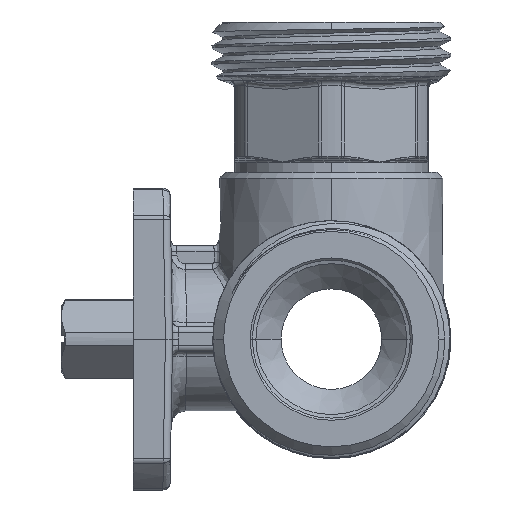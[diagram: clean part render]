
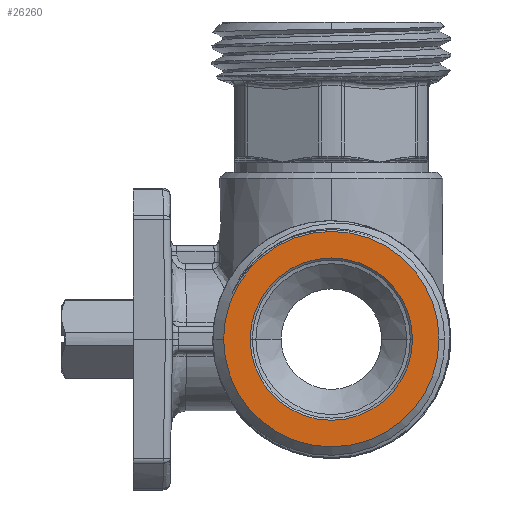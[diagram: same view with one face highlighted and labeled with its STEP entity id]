
A CAD part, left-side view. The second image highlights one B-rep face of the part: STEP entity #26260.
In plain terms, the highlighted planar face has unit normal (-1, 0, 0).
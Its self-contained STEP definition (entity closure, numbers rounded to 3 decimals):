
#2226=CARTESIAN_POINT('',(-44.1,0.,0.));
#2227=DIRECTION('',(1.,0.,0.));
#2228=DIRECTION('',(0.,1.,0.));
#2229=AXIS2_PLACEMENT_3D('',#2226,#2227,#2228);
#2490=CARTESIAN_POINT('',(-44.1,0.,0.));
#2491=DIRECTION('',(-1.,0.,0.));
#2492=DIRECTION('',(0.,1.,0.));
#2493=AXIS2_PLACEMENT_3D('',#2490,#2491,#2492);
#2495=CARTESIAN_POINT('',(-44.1,0.,0.));
#2496=DIRECTION('',(-1.,0.,0.));
#2497=DIRECTION('',(0.,1.,0.));
#2498=AXIS2_PLACEMENT_3D('',#2495,#2496,#2497);
#2500=CARTESIAN_POINT('',(-44.1,0.,0.));
#2501=DIRECTION('',(1.,0.,0.));
#2502=DIRECTION('',(0.,1.,0.));
#2503=AXIS2_PLACEMENT_3D('',#2500,#2501,#2502);
#22663=CARTESIAN_POINT('',(-44.1,11.3,0.));
#22664=VERTEX_POINT('',#22663);
#22665=CARTESIAN_POINT('',(-44.1,15.,0.));
#22667=VERTEX_POINT('',#22665);
#22679=CARTESIAN_POINT('',(-44.1,-11.3,0.));
#22680=VERTEX_POINT('',#22679);
#22681=CARTESIAN_POINT('',(-44.1,-15.,0.));
#22682=VERTEX_POINT('',#22681);
#26245=CARTESIAN_POINT('',(-44.1,0.,0.));
#26246=DIRECTION('',(-1.,0.,0.));
#26247=DIRECTION('',(0.,1.,0.));
#26248=AXIS2_PLACEMENT_3D('',#26245,#26246,#26247);
#26249=PLANE('',#26248);
#26250=ORIENTED_EDGE('',*,*,#25594,.T.);
#26251=ORIENTED_EDGE('',*,*,#26239,.F.);
#26252=EDGE_LOOP('',(#26250,#26251));
#26253=FACE_OUTER_BOUND('',#26252,.F.);
#26255=ORIENTED_EDGE('',*,*,#26254,.T.);
#26257=ORIENTED_EDGE('',*,*,#26256,.F.);
#26258=EDGE_LOOP('',(#26255,#26257));
#26259=FACE_BOUND('',#26258,.F.);
#2230=CIRCLE('',#2229,15.);
#2494=CIRCLE('',#2493,15.);
#2499=CIRCLE('',#2498,11.3);
#2504=CIRCLE('',#2503,11.3);
#25594=EDGE_CURVE('',#22667,#22682,#2230,.T.);
#26239=EDGE_CURVE('',#22667,#22682,#2494,.T.);
#26254=EDGE_CURVE('',#22664,#22680,#2499,.T.);
#26256=EDGE_CURVE('',#22664,#22680,#2504,.T.);
#26260=ADVANCED_FACE('',(#26253,#26259),#26249,.T.);
